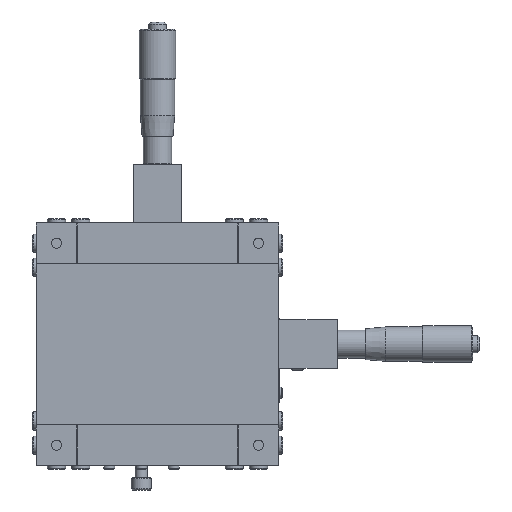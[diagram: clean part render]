
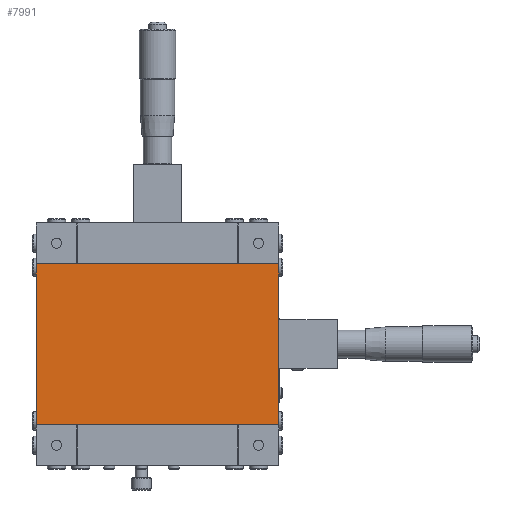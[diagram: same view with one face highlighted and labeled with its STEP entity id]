
A CAD part, front view. The second image highlights one B-rep face of the part: STEP entity #7991.
In plain terms, the highlighted planar face has unit normal (0, -1, 0).
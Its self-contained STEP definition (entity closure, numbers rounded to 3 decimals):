
#5749 = VERTEX_POINT ( 'NONE', #15036 ) ;
#5751 = EDGE_CURVE ( 'NONE', #5749, #5752, #15035, .T. ) ;
#5752 = VERTEX_POINT ( 'NONE', #15031 ) ;
#7991 = ADVANCED_FACE ( 'NONE', ( #28466 ), #28465, .T. ) ;
#7997 = EDGE_LOOP ( 'NONE', ( #7999, #8000, #8074, #8079 ) ) ;
#7999 = ORIENTED_EDGE ( 'NONE', *, *, #5751, .F. ) ;
#8000 = ORIENTED_EDGE ( 'NONE', *, *, #8002, .F. ) ;
#8002 = EDGE_CURVE ( 'NONE', #8008, #5749, #28460, .T. ) ;
#8008 = VERTEX_POINT ( 'NONE', #28474 ) ;
#8074 = ORIENTED_EDGE ( 'NONE', *, *, #8075, .T. ) ;
#8075 = EDGE_CURVE ( 'NONE', #8008, #8122, #28581, .T. ) ;
#8079 = ORIENTED_EDGE ( 'NONE', *, *, #8120, .T. ) ;
#8120 = EDGE_CURVE ( 'NONE', #8122, #5752, #28523, .T. ) ;
#8122 = VERTEX_POINT ( 'NONE', #28519 ) ;
#15031 = CARTESIAN_POINT ( 'NONE',  ( -60., 0.3, 39.7 ) ) ;
#15032 = DIRECTION ( 'NONE',  ( 0., 0., 1. ) ) ;
#15033 = VECTOR ( 'NONE', #15032, 1000. ) ;
#15034 = CARTESIAN_POINT ( 'NONE',  ( -60., 0.3, 0. ) ) ;
#15035 = LINE ( 'NONE', #15034, #15033 ) ;
#15036 = CARTESIAN_POINT ( 'NONE',  ( -60., 0.3, -39.7 ) ) ;
#28457 = DIRECTION ( 'NONE',  ( -1., 0., 0. ) ) ;
#28458 = VECTOR ( 'NONE', #28457, 1000. ) ;
#28459 = CARTESIAN_POINT ( 'NONE',  ( 60., 0.3, -39.7 ) ) ;
#28460 = LINE ( 'NONE', #28459, #28458 ) ;
#28461 = DIRECTION ( 'NONE',  ( 0., 0., -1. ) ) ;
#28462 = DIRECTION ( 'NONE',  ( 0., -1., 0. ) ) ;
#28463 = CARTESIAN_POINT ( 'NONE',  ( 60., 0.3, 0. ) ) ;
#28464 = AXIS2_PLACEMENT_3D ( 'NONE', #28463, #28462, #28461 ) ;
#28465 = PLANE ( 'NONE',  #28464 ) ;
#28466 = FACE_OUTER_BOUND ( 'NONE', #7997, .T. ) ;
#28474 = CARTESIAN_POINT ( 'NONE',  ( 60., 0.3, -39.7 ) ) ;
#28519 = CARTESIAN_POINT ( 'NONE',  ( 60., 0.3, 39.7 ) ) ;
#28520 = DIRECTION ( 'NONE',  ( -1., 0., 0. ) ) ;
#28521 = VECTOR ( 'NONE', #28520, 1000. ) ;
#28522 = CARTESIAN_POINT ( 'NONE',  ( 60., 0.3, 39.7 ) ) ;
#28523 = LINE ( 'NONE', #28522, #28521 ) ;
#28578 = DIRECTION ( 'NONE',  ( 0., 0., 1. ) ) ;
#28579 = VECTOR ( 'NONE', #28578, 1000. ) ;
#28580 = CARTESIAN_POINT ( 'NONE',  ( 60., 0.3, 0. ) ) ;
#28581 = LINE ( 'NONE', #28580, #28579 ) ;
